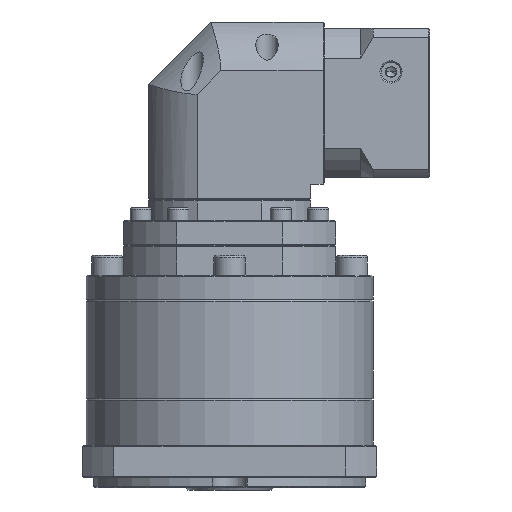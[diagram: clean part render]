
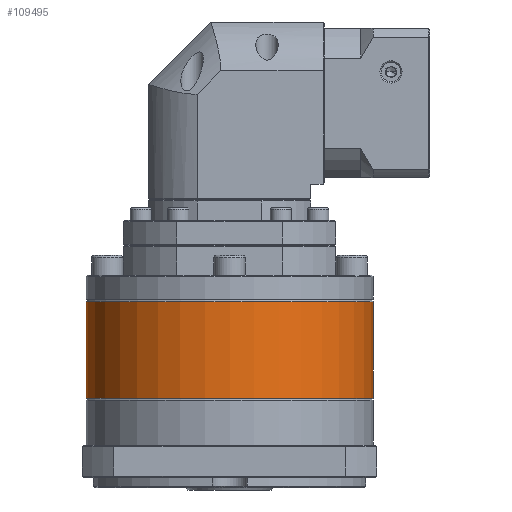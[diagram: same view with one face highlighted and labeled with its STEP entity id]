
A CAD part, front view. The second image highlights one B-rep face of the part: STEP entity #109495.
In plain terms, the highlighted cylindrical face has radius 57.5 mm (diameter 115 mm), a partial arc.
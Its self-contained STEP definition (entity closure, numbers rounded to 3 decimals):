
#14244 = CARTESIAN_POINT ( 'NONE',  ( 28.83, 69.487, -145.295 ) ) ;
#15694 = CARTESIAN_POINT ( 'NONE',  ( 143.83, 69.487, -145.295 ) ) ;
#19258 = ORIENTED_EDGE ( 'NONE', *, *, #43147, .T. ) ;
#22709 = VECTOR ( 'NONE', #91348, 1000. ) ;
#32679 = LINE ( 'NONE', #38304, #102350 ) ;
#38304 = CARTESIAN_POINT ( 'NONE',  ( 143.83, 69.487, -106.084 ) ) ;
#38667 = VERTEX_POINT ( 'NONE', #15694 ) ;
#41850 = FACE_OUTER_BOUND ( 'NONE', #149978, .T. ) ;
#43147 = EDGE_CURVE ( 'NONE', #137279, #123006, #90524, .T. ) ;
#48603 = VERTEX_POINT ( 'NONE', #79676 ) ;
#49671 = DIRECTION ( 'NONE',  ( -1., 0., 0. ) ) ;
#50093 = DIRECTION ( 'NONE',  ( 0., 0., -1. ) ) ;
#56299 = CARTESIAN_POINT ( 'NONE',  ( 28.83, 69.487, -106.584 ) ) ;
#57542 = DIRECTION ( 'NONE',  ( -1., 0., 0. ) ) ;
#64097 = AXIS2_PLACEMENT_3D ( 'NONE', #98376, #75847, #111137 ) ;
#74220 = ORIENTED_EDGE ( 'NONE', *, *, #91655, .T. ) ;
#75847 = DIRECTION ( 'NONE',  ( 0., 0., -1. ) ) ;
#79676 = CARTESIAN_POINT ( 'NONE',  ( 143.83, 69.487, -106.584 ) ) ;
#82004 = CIRCLE ( 'NONE', #116447, 57.5 ) ;
#86359 = ORIENTED_EDGE ( 'NONE', *, *, #139855, .F. ) ;
#90524 = LINE ( 'NONE', #114417, #22709 ) ;
#91348 = DIRECTION ( 'NONE',  ( 0., 0., -1. ) ) ;
#91655 = EDGE_CURVE ( 'NONE', #48603, #137279, #135943, .T. ) ;
#92343 = DIRECTION ( 'NONE',  ( 0., 0., 1. ) ) ;
#97248 = CARTESIAN_POINT ( 'NONE',  ( 86.33, 69.487, -106.084 ) ) ;
#98376 = CARTESIAN_POINT ( 'NONE',  ( 86.33, 69.487, -106.584 ) ) ;
#102350 = VECTOR ( 'NONE', #50093, 1000. ) ;
#109495 = ADVANCED_FACE ( 'NONE', ( #41850 ), #122409, .T. ) ;
#111137 = DIRECTION ( 'NONE',  ( -1., 0., 0. ) ) ;
#113917 = ORIENTED_EDGE ( 'NONE', *, *, #132130, .T. ) ;
#114417 = CARTESIAN_POINT ( 'NONE',  ( 28.83, 69.487, -106.084 ) ) ;
#115123 = AXIS2_PLACEMENT_3D ( 'NONE', #97248, #142498, #49671 ) ;
#116447 = AXIS2_PLACEMENT_3D ( 'NONE', #139082, #92343, #57542 ) ;
#122409 = CYLINDRICAL_SURFACE ( 'NONE', #115123, 57.5 ) ;
#123006 = VERTEX_POINT ( 'NONE', #14244 ) ;
#132130 = EDGE_CURVE ( 'NONE', #123006, #38667, #82004, .T. ) ;
#135943 = CIRCLE ( 'NONE', #64097, 57.5 ) ;
#137279 = VERTEX_POINT ( 'NONE', #56299 ) ;
#139082 = CARTESIAN_POINT ( 'NONE',  ( 86.33, 69.487, -145.295 ) ) ;
#139855 = EDGE_CURVE ( 'NONE', #48603, #38667, #32679, .T. ) ;
#142498 = DIRECTION ( 'NONE',  ( 0., 0., -1. ) ) ;
#149978 = EDGE_LOOP ( 'NONE', ( #86359, #74220, #19258, #113917 ) ) ;
